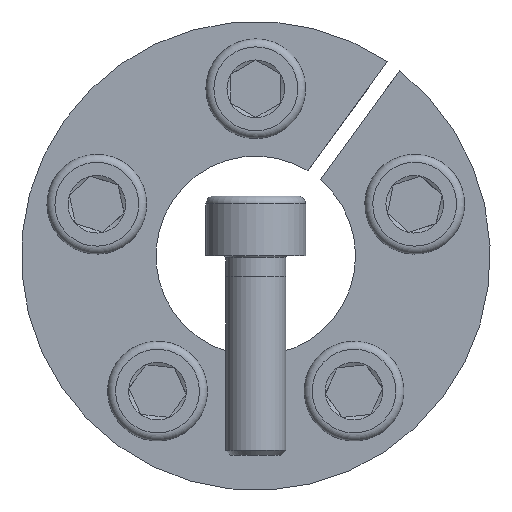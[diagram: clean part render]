
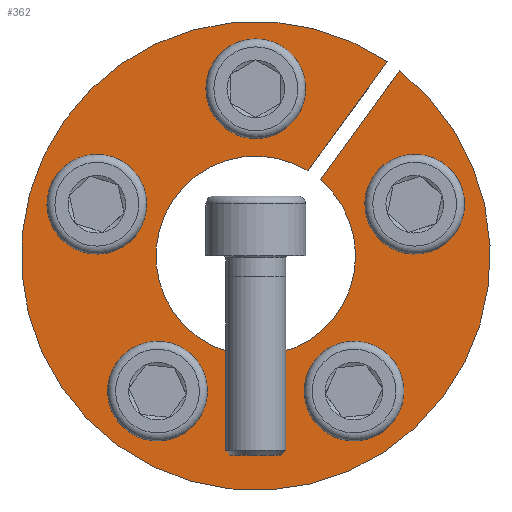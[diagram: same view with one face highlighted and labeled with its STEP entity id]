
A CAD part, front view. The second image highlights one B-rep face of the part: STEP entity #362.
In plain terms, the highlighted planar face has unit normal (0, -1, 0).
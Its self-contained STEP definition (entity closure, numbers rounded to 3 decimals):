
#362 = ADVANCED_FACE( '', ( #559, #560, #561, #562, #563, #564 ), #565, .F. );
#559 = FACE_BOUND( '', #693, .T. );
#560 = FACE_BOUND( '', #694, .T. );
#561 = FACE_OUTER_BOUND( '', #695, .T. );
#562 = FACE_BOUND( '', #696, .T. );
#563 = FACE_BOUND( '', #697, .T. );
#564 = FACE_BOUND( '', #698, .T. );
#565 = PLANE( '', #699 );
#693 = EDGE_LOOP( '', ( #876 ) );
#694 = EDGE_LOOP( '', ( #877 ) );
#695 = EDGE_LOOP( '', ( #878, #879, #880, #881 ) );
#696 = EDGE_LOOP( '', ( #882 ) );
#697 = EDGE_LOOP( '', ( #883 ) );
#698 = EDGE_LOOP( '', ( #884 ) );
#699 = AXIS2_PLACEMENT_3D( '', #885, #886, #887 );
#876 = ORIENTED_EDGE( '', *, *, #1168, .T. );
#877 = ORIENTED_EDGE( '', *, *, #1169, .T. );
#878 = ORIENTED_EDGE( '', *, *, #1166, .F. );
#879 = ORIENTED_EDGE( '', *, *, #1162, .F. );
#880 = ORIENTED_EDGE( '', *, *, #1170, .T. );
#881 = ORIENTED_EDGE( '', *, *, #1171, .F. );
#882 = ORIENTED_EDGE( '', *, *, #1172, .T. );
#883 = ORIENTED_EDGE( '', *, *, #1173, .T. );
#884 = ORIENTED_EDGE( '', *, *, #1174, .T. );
#885 = CARTESIAN_POINT( '', ( 0., 0., 23.5 ) );
#886 = DIRECTION( '', ( 0., 1., 0. ) );
#887 = DIRECTION( '', ( 0., 0., 1. ) );
#1162 = EDGE_CURVE( '', #1285, #1287, #1288, .T. );
#1166 = EDGE_CURVE( '', #1287, #1294, #1295, .T. );
#1168 = EDGE_CURVE( '', #1297, #1297, #1298, .T. );
#1169 = EDGE_CURVE( '', #1299, #1299, #1300, .T. );
#1170 = EDGE_CURVE( '', #1285, #1301, #1302, .T. );
#1171 = EDGE_CURVE( '', #1294, #1301, #1303, .T. );
#1172 = EDGE_CURVE( '', #1304, #1304, #1305, .T. );
#1173 = EDGE_CURVE( '', #1306, #1306, #1307, .T. );
#1174 = EDGE_CURVE( '', #1308, #1308, #1309, .T. );
#1285 = VERTEX_POINT( '', #1389 );
#1287 = VERTEX_POINT( '', #1392 );
#1288 = LINE( '', #1393, #1394 );
#1294 = VERTEX_POINT( '', #1402 );
#1295 = CIRCLE( '', #1403, 10. );
#1297 = VERTEX_POINT( '', #1406 );
#1298 = CIRCLE( '', #1407, 3. );
#1299 = VERTEX_POINT( '', #1408 );
#1300 = CIRCLE( '', #1409, 3. );
#1301 = VERTEX_POINT( '', #1410 );
#1302 = CIRCLE( '', #1411, 23.5 );
#1303 = LINE( '', #1412, #1413 );
#1304 = VERTEX_POINT( '', #1414 );
#1305 = CIRCLE( '', #1415, 3. );
#1306 = VERTEX_POINT( '', #1416 );
#1307 = CIRCLE( '', #1417, 3. );
#1308 = VERTEX_POINT( '', #1418 );
#1309 = CIRCLE( '', #1419, 3. );
#1389 = CARTESIAN_POINT( '', ( 13.182, 0., 19.455 ) );
#1392 = CARTESIAN_POINT( '', ( 5.237, 0., 8.519 ) );
#1393 = CARTESIAN_POINT( '', ( 13.19, 0., 19.465 ) );
#1394 = VECTOR( '', #1488, 1000. );
#1402 = CARTESIAN_POINT( '', ( 6.484, 0., 7.613 ) );
#1403 = AXIS2_PLACEMENT_3D( '', #1494, #1495, #1496 );
#1406 = CARTESIAN_POINT( '', ( -12.272, 0., -11.788 ) );
#1407 = AXIS2_PLACEMENT_3D( '', #1498, #1499, #1500 );
#1408 = CARTESIAN_POINT( '', ( 16.857, 0., 2.323 ) );
#1409 = AXIS2_PLACEMENT_3D( '', #1501, #1502, #1503 );
#1410 = CARTESIAN_POINT( '', ( 14.429, 0., 18.549 ) );
#1411 = AXIS2_PLACEMENT_3D( '', #1504, #1505, #1506 );
#1412 = CARTESIAN_POINT( '', ( 6.484, 0., 7.613 ) );
#1413 = VECTOR( '', #1507, 1000. );
#1414 = CARTESIAN_POINT( '', ( 3., 0., 16.75 ) );
#1415 = AXIS2_PLACEMENT_3D( '', #1508, #1509, #1510 );
#1416 = CARTESIAN_POINT( '', ( 7.418, 0., -15.314 ) );
#1417 = AXIS2_PLACEMENT_3D( '', #1511, #1512, #1513 );
#1418 = CARTESIAN_POINT( '', ( -15.003, 0., 8.029 ) );
#1419 = AXIS2_PLACEMENT_3D( '', #1514, #1515, #1516 );
#1488 = DIRECTION( '', ( -0.588, 0., -0.809 ) );
#1494 = CARTESIAN_POINT( '', ( 0., 0., 0. ) );
#1495 = DIRECTION( '', ( 0., -1., 0. ) );
#1496 = DIRECTION( '', ( 0., 0., -1. ) );
#1498 = CARTESIAN_POINT( '', ( -9.845, 0., -13.551 ) );
#1499 = DIRECTION( '', ( 0., 1., 0. ) );
#1500 = DIRECTION( '', ( -0.809, 0., 0.588 ) );
#1501 = CARTESIAN_POINT( '', ( 15.93, 0., 5.176 ) );
#1502 = DIRECTION( '', ( 0., 1., 0. ) );
#1503 = DIRECTION( '', ( 0.309, 0., -0.951 ) );
#1504 = CARTESIAN_POINT( '', ( 0., 0., 0. ) );
#1505 = DIRECTION( '', ( 0., -1., 0. ) );
#1506 = DIRECTION( '', ( 0., 0., -1. ) );
#1507 = DIRECTION( '', ( 0.588, 0., 0.809 ) );
#1508 = CARTESIAN_POINT( '', ( 0., 0., 16.75 ) );
#1509 = DIRECTION( '', ( 0., 1., 0. ) );
#1510 = DIRECTION( '', ( 1., 0., 0. ) );
#1511 = CARTESIAN_POINT( '', ( 9.845, 0., -13.551 ) );
#1512 = DIRECTION( '', ( 0., 1., 0. ) );
#1513 = DIRECTION( '', ( -0.809, 0., -0.588 ) );
#1514 = CARTESIAN_POINT( '', ( -15.93, 0., 5.176 ) );
#1515 = DIRECTION( '', ( 0., 1., 0. ) );
#1516 = DIRECTION( '', ( 0.309, 0., 0.951 ) );
